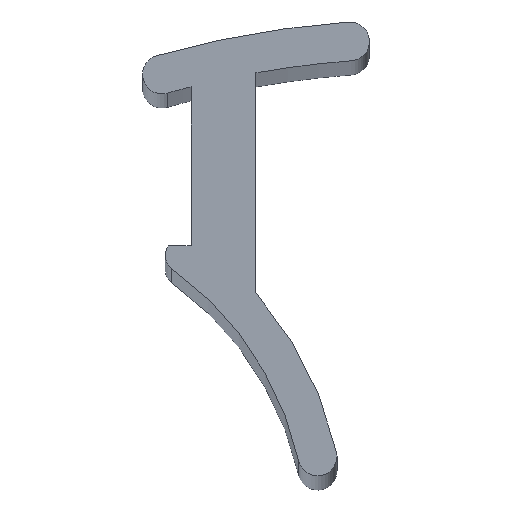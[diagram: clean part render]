
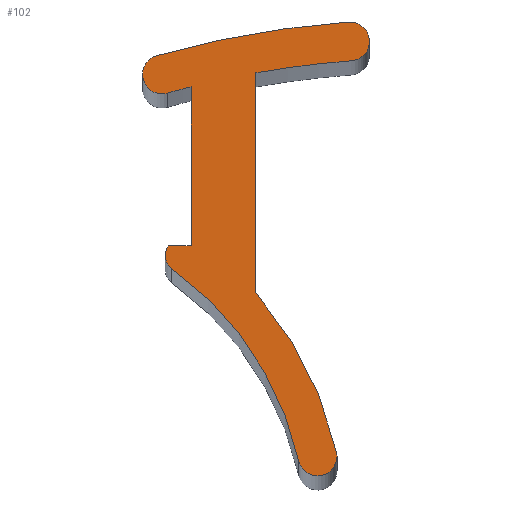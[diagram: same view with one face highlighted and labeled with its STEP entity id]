
A CAD part, top view. The second image highlights one B-rep face of the part: STEP entity #102.
In plain terms, the highlighted planar face has unit normal (0, 0, 1).
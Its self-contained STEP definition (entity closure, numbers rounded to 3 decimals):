
#1 = DIRECTION ( 'NONE',  ( 1., 0., 0. ) ) ;
#4 = VECTOR ( 'NONE', #425, 1000. ) ;
#5 = EDGE_CURVE ( 'NONE', #203, #363, #134, .T. ) ;
#7 = CARTESIAN_POINT ( 'NONE',  ( 4.856, 1.998, 50. ) ) ;
#9 = EDGE_CURVE ( 'NONE', #574, #24, #80, .T. ) ;
#23 = DIRECTION ( 'NONE',  ( 0., 0., 1. ) ) ;
#24 = VERTEX_POINT ( 'NONE', #7 ) ;
#26 = ORIENTED_EDGE ( 'NONE', *, *, #477, .T. ) ;
#29 = VERTEX_POINT ( 'NONE', #236 ) ;
#37 = DIRECTION ( 'NONE',  ( 1., 0., 0. ) ) ;
#49 = AXIS2_PLACEMENT_3D ( 'NONE', #480, #213, #297 ) ;
#52 = DIRECTION ( 'NONE',  ( 1., 0., 0. ) ) ;
#55 = EDGE_CURVE ( 'NONE', #476, #301, #483, .T. ) ;
#58 = AXIS2_PLACEMENT_3D ( 'NONE', #432, #23, #206 ) ;
#59 = CIRCLE ( 'NONE', #332, 0.6 ) ;
#67 = DIRECTION ( 'NONE',  ( 1., 0., 0. ) ) ;
#71 = CARTESIAN_POINT ( 'NONE',  ( -1.063, 0.958, 50. ) ) ;
#78 = ORIENTED_EDGE ( 'NONE', *, *, #561, .T. ) ;
#80 = CIRCLE ( 'NONE', #554, 30. ) ;
#84 = EDGE_LOOP ( 'NONE', ( #166, #443, #572, #78, #131, #320, #371, #208, #103, #194, #110, #395, #527, #26 ) ) ;
#95 = CARTESIAN_POINT ( 'NONE',  ( 4.5, -11.4, 50. ) ) ;
#96 = CARTESIAN_POINT ( 'NONE',  ( -0.593, -5.605, 50. ) ) ;
#100 = CARTESIAN_POINT ( 'NONE',  ( 0., -4.9, 50. ) ) ;
#102 = ADVANCED_FACE ( 'NONE', ( #111 ), #275, .F. ) ;
#103 = ORIENTED_EDGE ( 'NONE', *, *, #174, .F. ) ;
#110 = ORIENTED_EDGE ( 'NONE', *, *, #264, .F. ) ;
#111 = FACE_OUTER_BOUND ( 'NONE', #84, .T. ) ;
#114 = DIRECTION ( 'NONE',  ( 1., 0., 0. ) ) ;
#118 = LINE ( 'NONE', #435, #494 ) ;
#124 = DIRECTION ( 'NONE',  ( 1., 0., 0. ) ) ;
#125 = CARTESIAN_POINT ( 'NONE',  ( -6.444, -13.715, 50. ) ) ;
#131 = ORIENTED_EDGE ( 'NONE', *, *, #136, .F. ) ;
#134 = CIRCLE ( 'NONE', #331, 0.5 ) ;
#136 = EDGE_CURVE ( 'NONE', #277, #333, #399, .T. ) ;
#140 = CARTESIAN_POINT ( 'NONE',  ( -0.3, -5.2, 50. ) ) ;
#144 = EDGE_CURVE ( 'NONE', #363, #468, #241, .T. ) ;
#161 = VERTEX_POINT ( 'NONE', #474 ) ;
#163 = DIRECTION ( 'NONE',  ( 0., 1., 0. ) ) ;
#166 = ORIENTED_EDGE ( 'NONE', *, *, #482, .F. ) ;
#169 = DIRECTION ( 'NONE',  ( 0., -1., 0. ) ) ;
#174 = EDGE_CURVE ( 'NONE', #301, #180, #313, .T. ) ;
#180 = VERTEX_POINT ( 'NONE', #386 ) ;
#194 = ORIENTED_EDGE ( 'NONE', *, *, #55, .F. ) ;
#203 = VERTEX_POINT ( 'NONE', #96 ) ;
#204 = EDGE_CURVE ( 'NONE', #29, #161, #379, .T. ) ;
#206 = DIRECTION ( 'NONE',  ( 1., 0., 0. ) ) ;
#208 = ORIENTED_EDGE ( 'NONE', *, *, #523, .F. ) ;
#209 = AXIS2_PLACEMENT_3D ( 'NONE', #585, #311, #37 ) ;
#212 = DIRECTION ( 'NONE',  ( 0., 0., -1. ) ) ;
#213 = DIRECTION ( 'NONE',  ( 0., 0., -1. ) ) ;
#217 = CIRCLE ( 'NONE', #586, 10. ) ;
#222 = CARTESIAN_POINT ( 'NONE',  ( -0.737, -0.197, 50. ) ) ;
#224 = AXIS2_PLACEMENT_3D ( 'NONE', #326, #415, #52 ) ;
#226 = CIRCLE ( 'NONE', #49, 0.6 ) ;
#232 = DIRECTION ( 'NONE',  ( 0., 0., -1. ) ) ;
#234 = AXIS2_PLACEMENT_3D ( 'NONE', #385, #533, #478 ) ;
#236 = CARTESIAN_POINT ( 'NONE',  ( 2., -6.357, 50. ) ) ;
#241 = LINE ( 'NONE', #100, #4 ) ;
#249 = CARTESIAN_POINT ( 'NONE',  ( 5.5, 1.4, 50. ) ) ;
#251 = DIRECTION ( 'NONE',  ( 0., 0., -1. ) ) ;
#264 = EDGE_CURVE ( 'NONE', #24, #476, #455, .T. ) ;
#265 = CIRCLE ( 'NONE', #234, 28.8 ) ;
#275 = PLANE ( 'NONE',  #368 ) ;
#277 = VERTEX_POINT ( 'NONE', #95 ) ;
#281 = AXIS2_PLACEMENT_3D ( 'NONE', #358, #402, #551 ) ;
#297 = DIRECTION ( 'NONE',  ( 1., 0., 0. ) ) ;
#301 = VERTEX_POINT ( 'NONE', #315 ) ;
#311 = DIRECTION ( 'NONE',  ( 0., 0., -1. ) ) ;
#313 = CIRCLE ( 'NONE', #58, 28.8 ) ;
#315 = CARTESIAN_POINT ( 'NONE',  ( 4.944, 0.802, 50. ) ) ;
#320 = ORIENTED_EDGE ( 'NONE', *, *, #458, .F. ) ;
#326 = CARTESIAN_POINT ( 'NONE',  ( 4.9, 1.4, 50. ) ) ;
#331 = AXIS2_PLACEMENT_3D ( 'NONE', #140, #500, #1 ) ;
#332 = AXIS2_PLACEMENT_3D ( 'NONE', #520, #341, #524 ) ;
#333 = VERTEX_POINT ( 'NONE', #589 ) ;
#337 = VERTEX_POINT ( 'NONE', #366 ) ;
#341 = DIRECTION ( 'NONE',  ( 0., 0., -1. ) ) ;
#348 = VERTEX_POINT ( 'NONE', #222 ) ;
#358 = CARTESIAN_POINT ( 'NONE',  ( -6.444, -13.715, 50. ) ) ;
#363 = VERTEX_POINT ( 'NONE', #462 ) ;
#365 = CARTESIAN_POINT ( 'NONE',  ( 7.064, -27.92, 50. ) ) ;
#366 = CARTESIAN_POINT ( 'NONE',  ( 0., 0., 50. ) ) ;
#368 = AXIS2_PLACEMENT_3D ( 'NONE', #383, #562, #512 ) ;
#371 = ORIENTED_EDGE ( 'NONE', *, *, #204, .F. ) ;
#379 = CIRCLE ( 'NONE', #281, 11.2 ) ;
#383 = CARTESIAN_POINT ( 'NONE',  ( 7.064, -27.92, 50. ) ) ;
#385 = CARTESIAN_POINT ( 'NONE',  ( 7.064, -27.92, 50. ) ) ;
#386 = CARTESIAN_POINT ( 'NONE',  ( 2., 0.431, 50. ) ) ;
#388 = CARTESIAN_POINT ( 'NONE',  ( 0., -4.9, 50. ) ) ;
#395 = ORIENTED_EDGE ( 'NONE', *, *, #9, .F. ) ;
#399 = CIRCLE ( 'NONE', #525, 0.6 ) ;
#402 = DIRECTION ( 'NONE',  ( 0., 0., -1. ) ) ;
#415 = DIRECTION ( 'NONE',  ( 0., 0., -1. ) ) ;
#425 = DIRECTION ( 'NONE',  ( 1., 0., 0. ) ) ;
#432 = CARTESIAN_POINT ( 'NONE',  ( 7.064, -27.92, 50. ) ) ;
#435 = CARTESIAN_POINT ( 'NONE',  ( 0., -27.92, 50. ) ) ;
#443 = ORIENTED_EDGE ( 'NONE', *, *, #144, .F. ) ;
#455 = CIRCLE ( 'NONE', #209, 0.6 ) ;
#458 = EDGE_CURVE ( 'NONE', #161, #277, #59, .T. ) ;
#462 = CARTESIAN_POINT ( 'NONE',  ( -0.7, -4.9, 50. ) ) ;
#468 = VERTEX_POINT ( 'NONE', #388 ) ;
#469 = LINE ( 'NONE', #570, #536 ) ;
#470 = CARTESIAN_POINT ( 'NONE',  ( 3.9, -11.4, 50. ) ) ;
#474 = CARTESIAN_POINT ( 'NONE',  ( 4.486, -11.269, 50. ) ) ;
#476 = VERTEX_POINT ( 'NONE', #249 ) ;
#477 = EDGE_CURVE ( 'NONE', #348, #337, #265, .T. ) ;
#478 = DIRECTION ( 'NONE',  ( 1., 0., 0. ) ) ;
#480 = CARTESIAN_POINT ( 'NONE',  ( -0.9, 0.381, 50. ) ) ;
#482 = EDGE_CURVE ( 'NONE', #468, #337, #118, .T. ) ;
#483 = CIRCLE ( 'NONE', #224, 0.6 ) ;
#494 = VECTOR ( 'NONE', #163, 1000. ) ;
#500 = DIRECTION ( 'NONE',  ( 0., 0., -1. ) ) ;
#512 = DIRECTION ( 'NONE',  ( -1., 0., 0. ) ) ;
#520 = CARTESIAN_POINT ( 'NONE',  ( 3.9, -11.4, 50. ) ) ;
#523 = EDGE_CURVE ( 'NONE', #180, #29, #469, .T. ) ;
#524 = DIRECTION ( 'NONE',  ( 1., 0., 0. ) ) ;
#525 = AXIS2_PLACEMENT_3D ( 'NONE', #470, #232, #67 ) ;
#527 = ORIENTED_EDGE ( 'NONE', *, *, #540, .F. ) ;
#533 = DIRECTION ( 'NONE',  ( 0., 0., -1. ) ) ;
#536 = VECTOR ( 'NONE', #169, 1000. ) ;
#540 = EDGE_CURVE ( 'NONE', #348, #574, #226, .T. ) ;
#551 = DIRECTION ( 'NONE',  ( 1., 0., 0. ) ) ;
#554 = AXIS2_PLACEMENT_3D ( 'NONE', #365, #212, #124 ) ;
#561 = EDGE_CURVE ( 'NONE', #203, #333, #217, .T. ) ;
#562 = DIRECTION ( 'NONE',  ( 0., 0., -1. ) ) ;
#570 = CARTESIAN_POINT ( 'NONE',  ( 2., -27.92, 50. ) ) ;
#572 = ORIENTED_EDGE ( 'NONE', *, *, #5, .F. ) ;
#574 = VERTEX_POINT ( 'NONE', #71 ) ;
#585 = CARTESIAN_POINT ( 'NONE',  ( 4.9, 1.4, 50. ) ) ;
#586 = AXIS2_PLACEMENT_3D ( 'NONE', #125, #251, #114 ) ;
#589 = CARTESIAN_POINT ( 'NONE',  ( 3.314, -11.531, 50. ) ) ;
